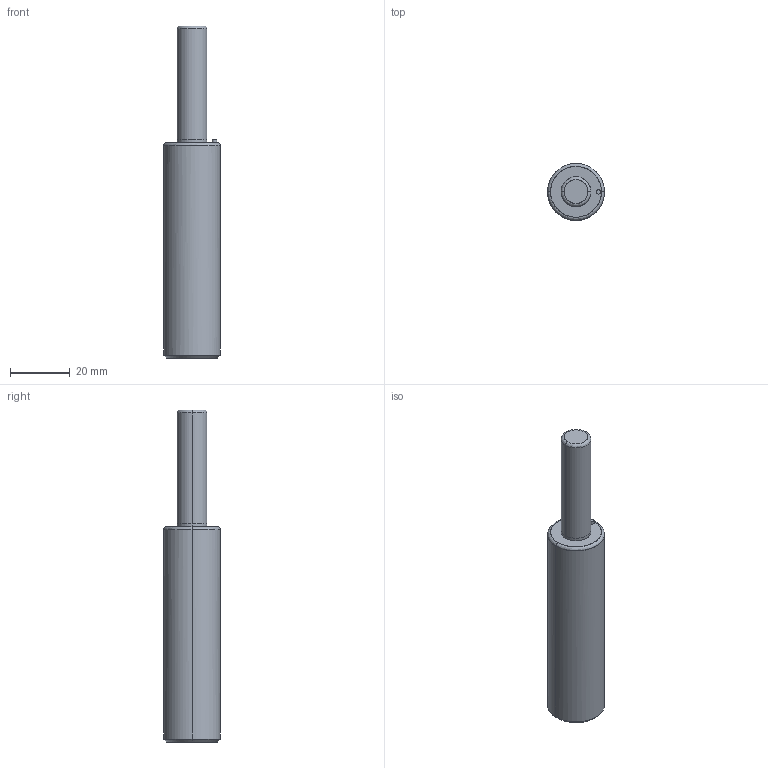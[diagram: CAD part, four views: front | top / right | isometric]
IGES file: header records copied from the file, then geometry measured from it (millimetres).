
Global section: file name: E:\UnigraphicsGraphicData\MISUMI_PRESS-PARTS\IGES\3d_mgsc19-38_04569_r00.igs; native system: NX V5.0; preprocessor: UGS NX IGES V5.0; author: MISUMI; date: 20110105.161435; units: millimetre
Bounding box: 19 x 18.98 x 111 mm (x, y, z)
Surface area: 6179.9 mm2 (no closed solid volume)
Topology: 0 solids, 0 shells, 24 faces, 136 edges, 134 vertices
Faces by surface type: bspline 24
